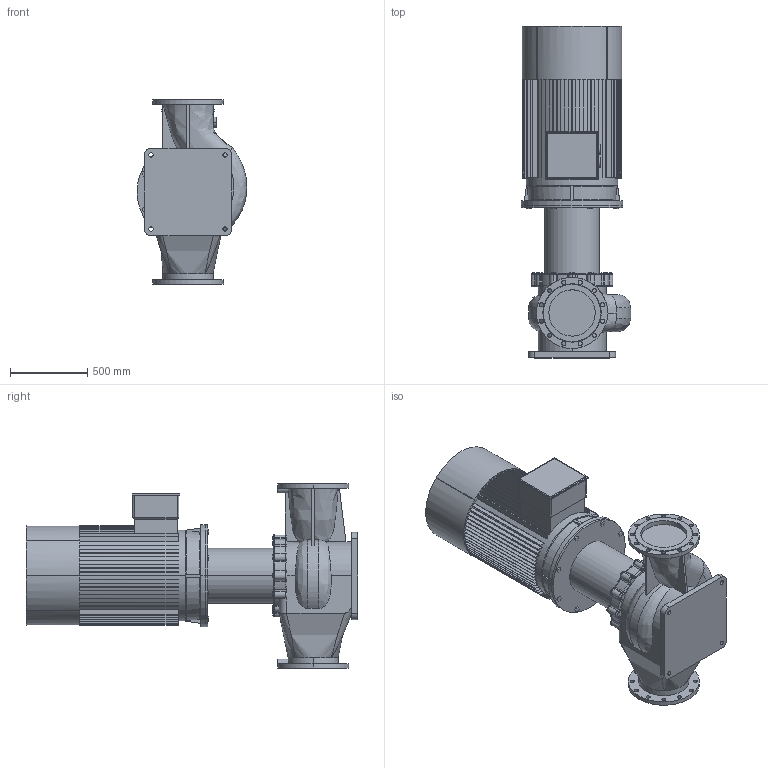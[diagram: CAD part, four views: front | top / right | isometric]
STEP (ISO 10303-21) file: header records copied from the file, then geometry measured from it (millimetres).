
FILE_DESCRIPTION (( 'STEP AP203' ), '1' );
FILE_NAME ('TD300-35_4.STEP', '2022-05-02T18:19:36', ( '' ), ( '' ), 'SwSTEP 2.0', 'SolidWorks 2019', '' );
FILE_SCHEMA (( 'CONFIG_CONTROL_DESIGN' ));
Length unit declared in the file: millimetre
Products named in the file (4): Pr_ch 300_TD300-35_4; ED_B5_YE2-315M-4 (132); TD300-35_4; Fon_300_TD300-35_4
Assembly tree (3 placements, depth 2):
  TD300-35_4
    Pr_ch 300_TD300-35_4
    Fon_300_TD300-35_4
    ED_B5_YE2-315M-4 (132)
Bounding box: 711.4 x 2149 x 1200 mm (x, y, z)
Volume: 570042955.3 mm3; surface area: 10641720.1 mm2
Topology: 5 solids, 5 shells, 882 faces, 2433 edges, 1600 vertices
Faces by surface type: plane 552, cylinder 239, torus 48, bspline 28, cone 15
Entity records: 36981 total; most frequent: CARTESIAN_POINT 13449, DIRECTION 4892, ORIENTED_EDGE 4858, EDGE_CURVE 2429, AXIS2_PLACEMENT_3D 1720, VERTEX_POINT 1600, LINE 1452, VECTOR 1452
